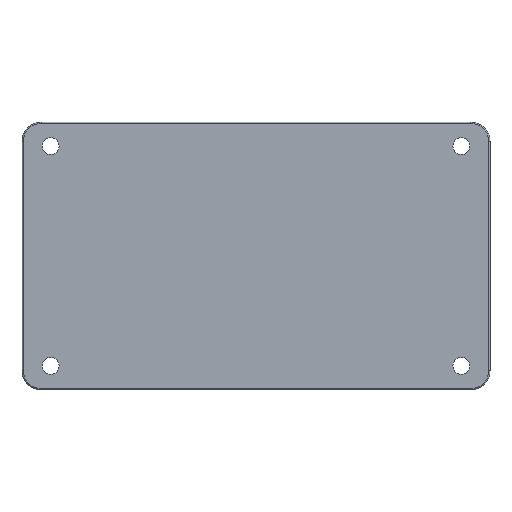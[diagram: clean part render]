
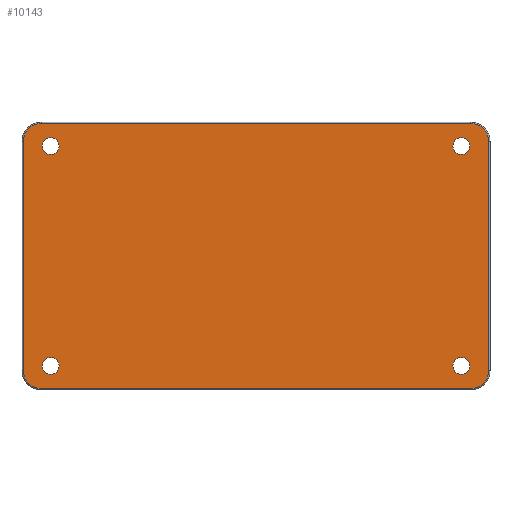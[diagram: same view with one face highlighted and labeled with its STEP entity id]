
A CAD part, front view. The second image highlights one B-rep face of the part: STEP entity #10143.
In plain terms, the highlighted planar face has unit normal (0, -1, 0).
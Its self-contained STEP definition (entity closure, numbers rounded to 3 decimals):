
#441 = ORIENTED_EDGE ( 'NONE', *, *, #21497, .F. ) ;
#472 = CARTESIAN_POINT ( 'NONE',  ( -45., 0., -27.75 ) ) ;
#691 = DIRECTION ( 'NONE',  ( 0., 0., -1. ) ) ;
#800 = ORIENTED_EDGE ( 'NONE', *, *, #15824, .T. ) ;
#807 = AXIS2_PLACEMENT_3D ( 'NONE', #20535, #6899, #21123 ) ;
#876 = DIRECTION ( 'NONE',  ( -1., 0., 0. ) ) ;
#1633 = VERTEX_POINT ( 'NONE', #2404 ) ;
#1716 = DIRECTION ( 'NONE',  ( 0., 0., -1. ) ) ;
#1729 = DIRECTION ( 'NONE',  ( 0., 0., -1. ) ) ;
#1760 = CIRCLE ( 'NONE', #2134, 1.75 ) ;
#2134 = AXIS2_PLACEMENT_3D ( 'NONE', #18234, #3288, #1729 ) ;
#2153 = CARTESIAN_POINT ( 'NONE',  ( -43., 0., -23. ) ) ;
#2158 = CARTESIAN_POINT ( 'NONE',  ( -43., 0., 24.75 ) ) ;
#2223 = VECTOR ( 'NONE', #11509, 1000. ) ;
#2323 = ORIENTED_EDGE ( 'NONE', *, *, #7344, .F. ) ;
#2404 = CARTESIAN_POINT ( 'NONE',  ( -45., 0., 27.75 ) ) ;
#2426 = VERTEX_POINT ( 'NONE', #14401 ) ;
#2956 = CARTESIAN_POINT ( 'NONE',  ( 45., 0., -24. ) ) ;
#3030 = CIRCLE ( 'NONE', #19423, 1.75 ) ;
#3288 = DIRECTION ( 'NONE',  ( 0., -1., 0. ) ) ;
#3316 = ORIENTED_EDGE ( 'NONE', *, *, #13923, .F. ) ;
#3799 = VERTEX_POINT ( 'NONE', #7723 ) ;
#4069 = EDGE_CURVE ( 'NONE', #17631, #16482, #6310, .T. ) ;
#4167 = AXIS2_PLACEMENT_3D ( 'NONE', #19111, #17326, #10169 ) ;
#4524 = CARTESIAN_POINT ( 'NONE',  ( 43., 0., -23. ) ) ;
#4540 = ORIENTED_EDGE ( 'NONE', *, *, #4069, .F. ) ;
#4697 = CIRCLE ( 'NONE', #21502, 1.75 ) ;
#4898 = VERTEX_POINT ( 'NONE', #20548 ) ;
#4968 = CARTESIAN_POINT ( 'NONE',  ( -43., 0., 21.25 ) ) ;
#5114 = EDGE_CURVE ( 'NONE', #18827, #21168, #22162, .T. ) ;
#5116 = EDGE_LOOP ( 'NONE', ( #441, #5578, #4540, #21437, #16298, #800, #3316, #10906 ) ) ;
#5444 = AXIS2_PLACEMENT_3D ( 'NONE', #6732, #21787, #7104 ) ;
#5578 = ORIENTED_EDGE ( 'NONE', *, *, #15649, .T. ) ;
#5875 = DIRECTION ( 'NONE',  ( 0., -1., 0. ) ) ;
#6310 = CIRCLE ( 'NONE', #19670, 3.75 ) ;
#6575 = FACE_BOUND ( 'NONE', #23171, .T. ) ;
#6697 = DIRECTION ( 'NONE',  ( 0., 0., 1. ) ) ;
#6732 = CARTESIAN_POINT ( 'NONE',  ( -45., 0., 24. ) ) ;
#6795 = AXIS2_PLACEMENT_3D ( 'NONE', #16870, #20679, #20801 ) ;
#6899 = DIRECTION ( 'NONE',  ( 0., -1., 0. ) ) ;
#7104 = DIRECTION ( 'NONE',  ( 0., 0., 1. ) ) ;
#7344 = EDGE_CURVE ( 'NONE', #9391, #18928, #22196, .T. ) ;
#7348 = CARTESIAN_POINT ( 'NONE',  ( 43., 0., 23. ) ) ;
#7395 = FACE_BOUND ( 'NONE', #16578, .T. ) ;
#7723 = CARTESIAN_POINT ( 'NONE',  ( 48.75, 0., 24. ) ) ;
#7730 = ORIENTED_EDGE ( 'NONE', *, *, #12553, .F. ) ;
#7870 = VERTEX_POINT ( 'NONE', #12729 ) ;
#8132 = AXIS2_PLACEMENT_3D ( 'NONE', #15904, #23172, #6697 ) ;
#8401 = EDGE_CURVE ( 'NONE', #18928, #9391, #4697, .T. ) ;
#8962 = VECTOR ( 'NONE', #22168, 1000. ) ;
#9070 = ORIENTED_EDGE ( 'NONE', *, *, #11088, .F. ) ;
#9085 = CARTESIAN_POINT ( 'NONE',  ( 45., 0., 24. ) ) ;
#9391 = VERTEX_POINT ( 'NONE', #12015 ) ;
#9842 = CARTESIAN_POINT ( 'NONE',  ( 48.75, 0., 28. ) ) ;
#10019 = CARTESIAN_POINT ( 'NONE',  ( -48.75, 0., 28. ) ) ;
#10079 = CIRCLE ( 'NONE', #23425, 1.75 ) ;
#10143 = ADVANCED_FACE ( 'NONE', ( #7395, #10404, #10527, #6575, #17570 ), #19585, .F. ) ;
#10169 = DIRECTION ( 'NONE',  ( 0., 0., -1. ) ) ;
#10404 = FACE_BOUND ( 'NONE', #12412, .T. ) ;
#10527 = FACE_BOUND ( 'NONE', #16063, .T. ) ;
#10629 = CIRCLE ( 'NONE', #6795, 1.75 ) ;
#10797 = CIRCLE ( 'NONE', #5444, 3.75 ) ;
#10906 = ORIENTED_EDGE ( 'NONE', *, *, #20315, .T. ) ;
#11088 = EDGE_CURVE ( 'NONE', #2426, #4898, #10079, .T. ) ;
#11489 = CARTESIAN_POINT ( 'NONE',  ( -45., 0., -24. ) ) ;
#11509 = DIRECTION ( 'NONE',  ( 0., 0., 1. ) ) ;
#11560 = DIRECTION ( 'NONE',  ( 0., -1., 0. ) ) ;
#11796 = LINE ( 'NONE', #10019, #22079 ) ;
#11851 = AXIS2_PLACEMENT_3D ( 'NONE', #2956, #21253, #17544 ) ;
#11893 = AXIS2_PLACEMENT_3D ( 'NONE', #20875, #11560, #691 ) ;
#11986 = ORIENTED_EDGE ( 'NONE', *, *, #21199, .F. ) ;
#12015 = CARTESIAN_POINT ( 'NONE',  ( 43., 0., 21.25 ) ) ;
#12412 = EDGE_LOOP ( 'NONE', ( #19118, #9070 ) ) ;
#12553 = EDGE_CURVE ( 'NONE', #7870, #13225, #3030, .T. ) ;
#12622 = EDGE_CURVE ( 'NONE', #13225, #7870, #14492, .T. ) ;
#12715 = CARTESIAN_POINT ( 'NONE',  ( -48.75, 0., 24. ) ) ;
#12729 = CARTESIAN_POINT ( 'NONE',  ( 43., 0., -24.75 ) ) ;
#12845 = DIRECTION ( 'NONE',  ( 0., 0., -1. ) ) ;
#13055 = VERTEX_POINT ( 'NONE', #4968 ) ;
#13170 = ORIENTED_EDGE ( 'NONE', *, *, #12622, .F. ) ;
#13225 = VERTEX_POINT ( 'NONE', #23508 ) ;
#13538 = LINE ( 'NONE', #19042, #17890 ) ;
#13800 = CARTESIAN_POINT ( 'NONE',  ( 43., 0., 24.75 ) ) ;
#13923 = EDGE_CURVE ( 'NONE', #21231, #3799, #23298, .T. ) ;
#14071 = EDGE_CURVE ( 'NONE', #13055, #21878, #22928, .T. ) ;
#14087 = LINE ( 'NONE', #16581, #8962 ) ;
#14401 = CARTESIAN_POINT ( 'NONE',  ( -43., 0., -21.25 ) ) ;
#14492 = CIRCLE ( 'NONE', #4167, 1.75 ) ;
#14634 = DIRECTION ( 'NONE',  ( 0., -1., 0. ) ) ;
#15093 = EDGE_CURVE ( 'NONE', #4898, #2426, #10629, .T. ) ;
#15114 = CARTESIAN_POINT ( 'NONE',  ( 45., 0., 27.75 ) ) ;
#15325 = LINE ( 'NONE', #9842, #2223 ) ;
#15649 = EDGE_CURVE ( 'NONE', #21461, #16482, #11796, .T. ) ;
#15824 = EDGE_CURVE ( 'NONE', #18827, #3799, #15325, .T. ) ;
#15904 = CARTESIAN_POINT ( 'NONE',  ( 49., 0., 28. ) ) ;
#16063 = EDGE_LOOP ( 'NONE', ( #7730, #13170 ) ) ;
#16298 = ORIENTED_EDGE ( 'NONE', *, *, #5114, .F. ) ;
#16413 = DIRECTION ( 'NONE',  ( 0., 0., -1. ) ) ;
#16482 = VERTEX_POINT ( 'NONE', #16503 ) ;
#16503 = CARTESIAN_POINT ( 'NONE',  ( -48.75, 0., -24. ) ) ;
#16578 = EDGE_LOOP ( 'NONE', ( #22911, #11986 ) ) ;
#16581 = CARTESIAN_POINT ( 'NONE',  ( 49., 0., -27.75 ) ) ;
#16870 = CARTESIAN_POINT ( 'NONE',  ( -43., 0., -23. ) ) ;
#16989 = DIRECTION ( 'NONE',  ( 0., 1., 0. ) ) ;
#17326 = DIRECTION ( 'NONE',  ( 0., -1., 0. ) ) ;
#17544 = DIRECTION ( 'NONE',  ( 0., 0., 1. ) ) ;
#17570 = FACE_OUTER_BOUND ( 'NONE', #5116, .T. ) ;
#17631 = VERTEX_POINT ( 'NONE', #472 ) ;
#17890 = VECTOR ( 'NONE', #876, 1000. ) ;
#18234 = CARTESIAN_POINT ( 'NONE',  ( -43., 0., 23. ) ) ;
#18256 = CARTESIAN_POINT ( 'NONE',  ( 48.75, 0., -24. ) ) ;
#18827 = VERTEX_POINT ( 'NONE', #18256 ) ;
#18928 = VERTEX_POINT ( 'NONE', #13800 ) ;
#19042 = CARTESIAN_POINT ( 'NONE',  ( 49., 0., 27.75 ) ) ;
#19103 = AXIS2_PLACEMENT_3D ( 'NONE', #9085, #22204, #19956 ) ;
#19111 = CARTESIAN_POINT ( 'NONE',  ( 43., 0., -23. ) ) ;
#19118 = ORIENTED_EDGE ( 'NONE', *, *, #15093, .F. ) ;
#19423 = AXIS2_PLACEMENT_3D ( 'NONE', #4524, #22463, #21022 ) ;
#19585 = PLANE ( 'NONE',  #8132 ) ;
#19670 = AXIS2_PLACEMENT_3D ( 'NONE', #11489, #16989, #22823 ) ;
#19956 = DIRECTION ( 'NONE',  ( 0., 0., 1. ) ) ;
#20029 = CARTESIAN_POINT ( 'NONE',  ( 45., 0., -27.75 ) ) ;
#20315 = EDGE_CURVE ( 'NONE', #21231, #1633, #13538, .T. ) ;
#20535 = CARTESIAN_POINT ( 'NONE',  ( -43., 0., 23. ) ) ;
#20548 = CARTESIAN_POINT ( 'NONE',  ( -43., 0., -24.75 ) ) ;
#20679 = DIRECTION ( 'NONE',  ( 0., -1., 0. ) ) ;
#20801 = DIRECTION ( 'NONE',  ( 0., 0., -1. ) ) ;
#20875 = CARTESIAN_POINT ( 'NONE',  ( 43., 0., 23. ) ) ;
#21022 = DIRECTION ( 'NONE',  ( 0., 0., -1. ) ) ;
#21123 = DIRECTION ( 'NONE',  ( 0., 0., -1. ) ) ;
#21168 = VERTEX_POINT ( 'NONE', #20029 ) ;
#21199 = EDGE_CURVE ( 'NONE', #21878, #13055, #1760, .T. ) ;
#21231 = VERTEX_POINT ( 'NONE', #15114 ) ;
#21253 = DIRECTION ( 'NONE',  ( 0., 1., 0. ) ) ;
#21394 = ORIENTED_EDGE ( 'NONE', *, *, #8401, .F. ) ;
#21437 = ORIENTED_EDGE ( 'NONE', *, *, #23405, .T. ) ;
#21461 = VERTEX_POINT ( 'NONE', #12715 ) ;
#21497 = EDGE_CURVE ( 'NONE', #21461, #1633, #10797, .T. ) ;
#21502 = AXIS2_PLACEMENT_3D ( 'NONE', #7348, #14634, #12845 ) ;
#21787 = DIRECTION ( 'NONE',  ( 0., 1., 0. ) ) ;
#21878 = VERTEX_POINT ( 'NONE', #2158 ) ;
#22079 = VECTOR ( 'NONE', #1716, 1000. ) ;
#22162 = CIRCLE ( 'NONE', #11851, 3.75 ) ;
#22168 = DIRECTION ( 'NONE',  ( 1., 0., 0. ) ) ;
#22196 = CIRCLE ( 'NONE', #11893, 1.75 ) ;
#22204 = DIRECTION ( 'NONE',  ( 0., 1., 0. ) ) ;
#22463 = DIRECTION ( 'NONE',  ( 0., -1., 0. ) ) ;
#22823 = DIRECTION ( 'NONE',  ( 0., 0., 1. ) ) ;
#22911 = ORIENTED_EDGE ( 'NONE', *, *, #14071, .F. ) ;
#22928 = CIRCLE ( 'NONE', #807, 1.75 ) ;
#23171 = EDGE_LOOP ( 'NONE', ( #2323, #21394 ) ) ;
#23172 = DIRECTION ( 'NONE',  ( 0., 1., 0. ) ) ;
#23298 = CIRCLE ( 'NONE', #19103, 3.75 ) ;
#23405 = EDGE_CURVE ( 'NONE', #17631, #21168, #14087, .T. ) ;
#23425 = AXIS2_PLACEMENT_3D ( 'NONE', #2153, #5875, #16413 ) ;
#23508 = CARTESIAN_POINT ( 'NONE',  ( 43., 0., -21.25 ) ) ;
